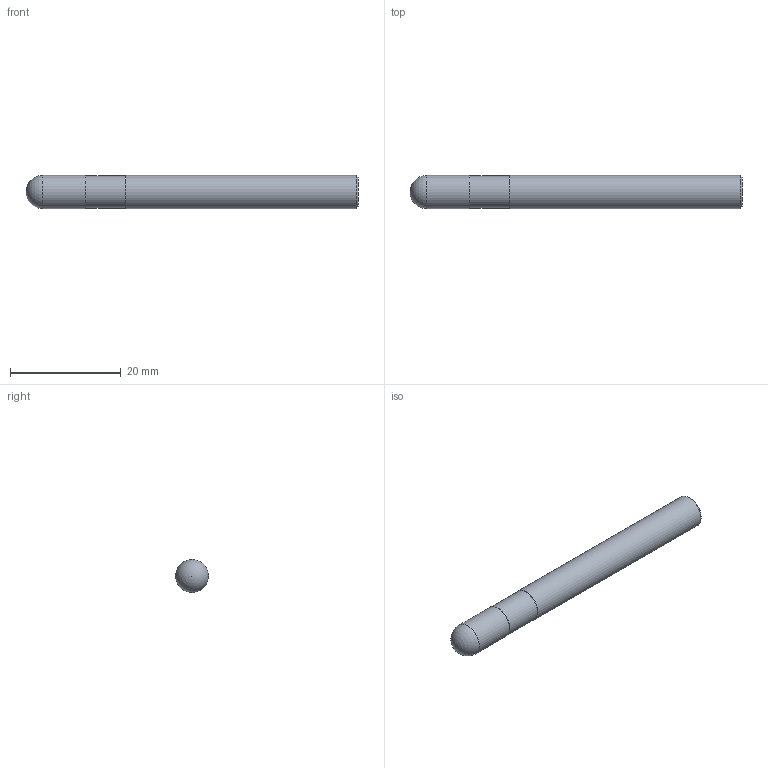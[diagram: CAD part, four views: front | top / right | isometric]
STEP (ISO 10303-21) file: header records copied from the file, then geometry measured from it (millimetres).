
FILE_DESCRIPTION(/* description */ (''),/* implementation_level */ '2;1');
FILE_NAME(/* name */ 'HSXBC4060 0660.stp',/* time_stamp */ '2026-01-27T10:29:52+08:00',/* author */ (''),/* organization */ (''),/* preprocessor_version */ 'ST-DEVELOPER v16',/* originating_system */ 'SIEMENS PLM Software NX 10.0',/* authorisation */ '');
FILE_SCHEMA (('CONFIG_CONTROL_DESIGN'));
Length unit declared in the file: millimetre
Products named in the file (1): HSXBC4060 0660_dxf
Bounding box: 60 x 6 x 6 mm (x, y, z)
Volume: 1657.3 mm3; surface area: 1262.7 mm2
Topology: 3 solids, 3 shells, 10 faces, 14 edges, 9 vertices
Faces by surface type: plane 5, cylinder 3, sphere 1, cone 1
Full cylindrical faces by diameter (mm): 5.85 x1, 6 x2
Entity records: 254 total; most frequent: DIRECTION 36, CARTESIAN_POINT 25, AXIS2_PLACEMENT_3D 18, EDGE_LOOP 14, ORIENTED_EDGE 14, ADVANCED_FACE 10, FACE_BOUND 8, PERSON_AND_ORGANIZATION 7
